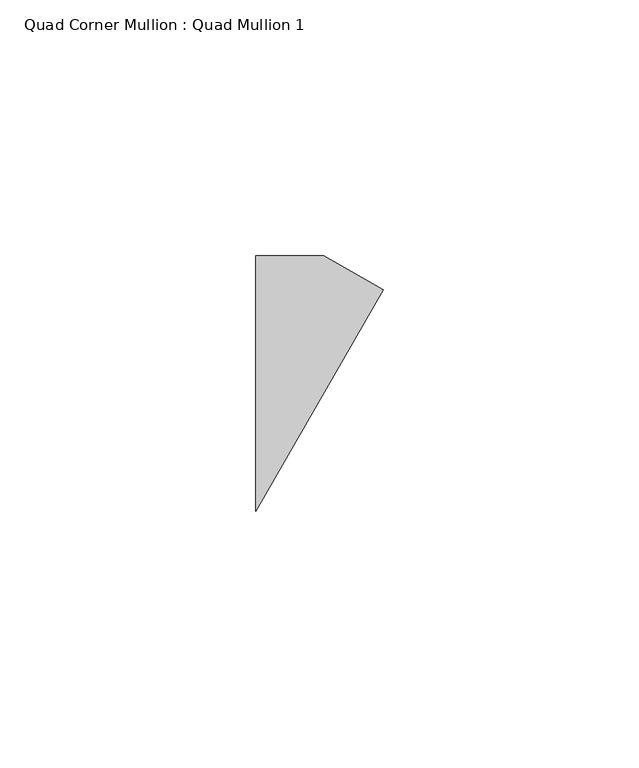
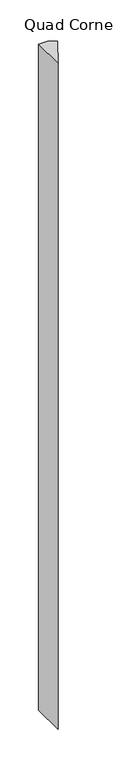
"""IFC4 building model written with IfcOpenShell, lengths in millimetres: member geometry, Quad Corner Mullion : Quad Mullion 1."""

from ifc_helpers import new_model, si_unit, frame, origin, place, context, project, spatial, polyline, outline, extrude, source, transform, mapped, element, save


def quad_corner_mullion_quad_mullion_1_784b9aba(model_context):
    return source(origin(), model_context, "Body", "SweptSolid", [
        extrude(outline(polyline([(18.2517715, 18.3425598), (-6.6765759, -25.0), (-6.6765759, 25.0), (6.6765759, 25.0), (18.2517715, 18.3425598)])), frame((0.0, 0.0, -1050.0), z_axis=(0.0, 0.0, 1.0), x_axis=(1.0, 0.0, 0.0)), (0.0, 0.0, 1.0), 1050.0),
    ])


if __name__ == "__main__":
    model = new_model("IFC4")
    model_context = context("Model", 3, world=origin())
    ifc_project = project(units=[si_unit("LENGTHUNIT", "METRE", prefix="MILLI")], contexts=[model_context])
    site = spatial("IfcSite", under=ifc_project)
    building = spatial("IfcBuilding", under=site)
    placement = place(None, origin())
    quad_corner_mullion_quad_mullion_1_shape = quad_corner_mullion_quad_mullion_1_784b9aba(model_context)
    element("IfcMember", 1, ObjectType="Quad Corner Mullion : Quad Mullion 1", at=placement, inside=building, context=model_context, shape_type="MappedRepresentation", body=[
        mapped(quad_corner_mullion_quad_mullion_1_shape, transform((0.0, 0.0, 0.0), x_axis=(1.0, 0.0, 0.0), y_axis=(0.0, 1.0, 0.0), z_axis=(0.0, 0.0, 1.0))),
    ])
    save(model, "model.ifc")
